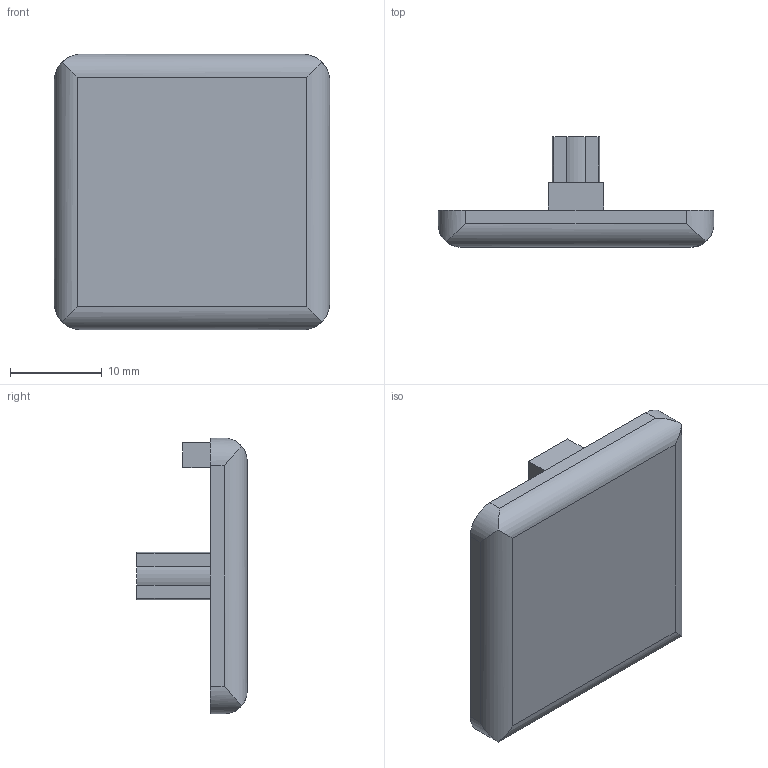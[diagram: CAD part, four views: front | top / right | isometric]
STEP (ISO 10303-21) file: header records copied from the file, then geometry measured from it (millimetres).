
FILE_DESCRIPTION(('FreeCAD Model'),'2;1');
FILE_NAME('Open CASCADE Shape Model','2021-05-04T11:27:07',('Author'),( ''),'Open CASCADE STEP processor 7.5','FreeCAD','Unknown');
FILE_SCHEMA(('AUTOMOTIVE_DESIGN { 1 0 10303 214 1 1 1 1 }'));
Length unit declared in the file: millimetre
Products named in the file (1): 30X30 PROFILE END CAP
Bounding box: 30 x 12 x 30 mm (x, y, z)
Volume: 3592.3 mm3; surface area: 2369.8 mm2
Topology: 1 solids, 1 shells, 36 faces, 93 edges, 62 vertices
Faces by surface type: plane 21, cylinder 15
Entity records: 2902 total; most frequent: CARTESIAN_POINT 1030, DIRECTION 335, LINE 207, VECTOR 207, ORIENTED_EDGE 186, PCURVE 186, DEFINITIONAL_REPRESENTATION 186, EDGE_CURVE 93
